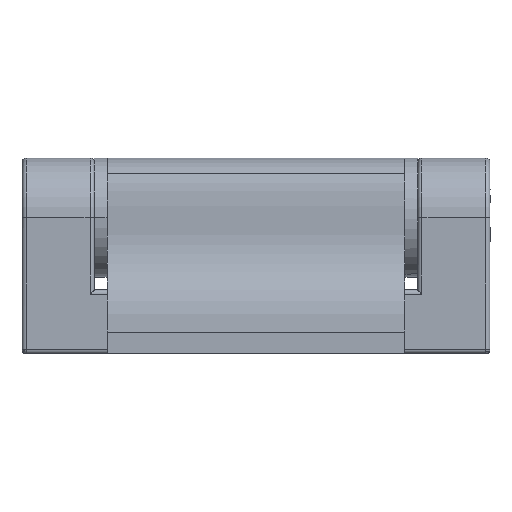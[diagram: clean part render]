
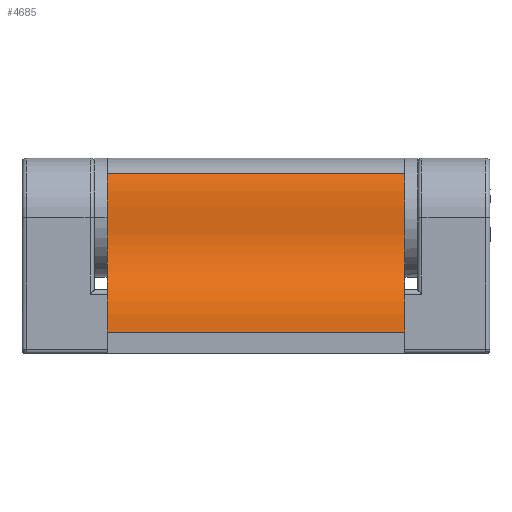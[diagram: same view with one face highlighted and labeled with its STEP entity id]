
A CAD part, top view. The second image highlights one B-rep face of the part: STEP entity #4685.
In plain terms, the highlighted free-form (B-spline) face has degree [3, 1] with [8, 2] control points.
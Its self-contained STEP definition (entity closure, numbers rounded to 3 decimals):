
#296 = EDGE_LOOP ( 'NONE', ( #4817, #5463, #8330, #1339 ) ) ;
#428 = CARTESIAN_POINT ( 'NONE',  ( 19., 2.5, 17.5 ) ) ;
#843 = CARTESIAN_POINT ( 'NONE',  ( 19., 2.5, -17.5 ) ) ;
#1034 = CARTESIAN_POINT ( 'NONE',  ( 3.984, 15.553, -17.5 ) ) ;
#1287 = VERTEX_POINT ( 'NONE', #843 ) ;
#1339 = ORIENTED_EDGE ( 'NONE', *, *, #2321, .T. ) ;
#1355 = CARTESIAN_POINT ( 'NONE',  ( -6.788, 19.833, 17.5 ) ) ;
#1645 = CARTESIAN_POINT ( 'NONE',  ( 11.254, 13.595, -17.5 ) ) ;
#1777 = EDGE_CURVE ( 'NONE', #1287, #8735, #7926, .T. ) ;
#2170 = FACE_OUTER_BOUND ( 'NONE', #296, .T. ) ;
#2321 = EDGE_CURVE ( 'NONE', #2681, #1287, #7442, .T. ) ;
#2355 = CARTESIAN_POINT ( 'NONE',  ( 19., 2.5, 17.5 ) ) ;
#2681 = VERTEX_POINT ( 'NONE', #428 ) ;
#2694 = CARTESIAN_POINT ( 'NONE',  ( 11.254, 13.595, 17.5 ) ) ;
#2808 = B_SPLINE_CURVE_WITH_KNOTS ( 'NONE', 3,
 ( #7454, #5362, #8087, #2694, #4055, #4015, #1355, #4809 ),
 .UNSPECIFIED., .F., .F.,
 ( 4, 1, 1, 1, 1, 4 ),
 ( 0., 0.189, 0.378, 0.621, 0.843, 1. ),
 .UNSPECIFIED. ) ;
#3053 = EDGE_CURVE ( 'NONE', #6456, #8735, #4742, .T. ) ;
#3087 = CARTESIAN_POINT ( 'NONE',  ( -8.33, 21.215, 17.5 ) ) ;
#3351 = DIRECTION ( 'NONE',  ( 0., 0., -1. ) ) ;
#3725 = CARTESIAN_POINT ( 'NONE',  ( -8.33, 21.215, 17.5 ) ) ;
#4015 = CARTESIAN_POINT ( 'NONE',  ( -3.051, 18.023, 17.5 ) ) ;
#4055 = CARTESIAN_POINT ( 'NONE',  ( 3.984, 15.553, 17.5 ) ) ;
#4290 = CARTESIAN_POINT ( 'NONE',  ( -6.788, 19.833, 17.5 ) ) ;
#4385 = CARTESIAN_POINT ( 'NONE',  ( 19., 5.334, -17.5 ) ) ;
#4390 = CARTESIAN_POINT ( 'NONE',  ( -3.051, 18.023, 17.5 ) ) ;
#4431 = CARTESIAN_POINT ( 'NONE',  ( -8.33, 21.215, -17.5 ) ) ;
#4685 = ADVANCED_FACE ( 'NONE', ( #2170 ), #4803, .F. ) ;
#4742 = LINE ( 'NONE', #8185, #8355 ) ;
#4803 = B_SPLINE_SURFACE_WITH_KNOTS ( 'NONE', 3, 1, ( 
 ( #2355, #5648 ),
 ( #7833, #8452 ),
 ( #7168, #5058 ),
 ( #8408, #1645 ),
 ( #5108, #1034 ),
 ( #4390, #7126 ),
 ( #4290, #6482 ),
 ( #3087, #8311 ) ),
 .UNSPECIFIED., .F., .F., .F.,
 ( 4, 1, 1, 1, 1, 4 ),
 ( 2, 2 ),
 ( 0., 0.189, 0.378, 0.621, 0.843, 1. ),
 ( 0., 1. ),
 .UNSPECIFIED. ) ;
#4809 = CARTESIAN_POINT ( 'NONE',  ( -8.33, 21.215, 17.5 ) ) ;
#4817 = ORIENTED_EDGE ( 'NONE', *, *, #1777, .T. ) ;
#5058 = CARTESIAN_POINT ( 'NONE',  ( 17.632, 9.062, -17.5 ) ) ;
#5108 = CARTESIAN_POINT ( 'NONE',  ( 3.984, 15.553, 17.5 ) ) ;
#5146 = CARTESIAN_POINT ( 'NONE',  ( 19., 2.5, -17.5 ) ) ;
#5183 = CARTESIAN_POINT ( 'NONE',  ( 11.254, 13.595, -17.5 ) ) ;
#5362 = CARTESIAN_POINT ( 'NONE',  ( 19., 5.334, 17.5 ) ) ;
#5463 = ORIENTED_EDGE ( 'NONE', *, *, #3053, .F. ) ;
#5537 = VECTOR ( 'NONE', #5988, 1000. ) ;
#5648 = CARTESIAN_POINT ( 'NONE',  ( 19., 2.5, -17.5 ) ) ;
#5955 = CARTESIAN_POINT ( 'NONE',  ( -6.788, 19.833, -17.5 ) ) ;
#5988 = DIRECTION ( 'NONE',  ( 0., 0., -1. ) ) ;
#6254 = CARTESIAN_POINT ( 'NONE',  ( -8.33, 21.215, -17.5 ) ) ;
#6456 = VERTEX_POINT ( 'NONE', #3725 ) ;
#6482 = CARTESIAN_POINT ( 'NONE',  ( -6.788, 19.833, -17.5 ) ) ;
#6564 = CARTESIAN_POINT ( 'NONE',  ( -3.051, 18.023, -17.5 ) ) ;
#6596 = CARTESIAN_POINT ( 'NONE',  ( 19., 2.5, 17.5 ) ) ;
#7126 = CARTESIAN_POINT ( 'NONE',  ( -3.051, 18.023, -17.5 ) ) ;
#7162 = CARTESIAN_POINT ( 'NONE',  ( 17.632, 9.062, -17.5 ) ) ;
#7168 = CARTESIAN_POINT ( 'NONE',  ( 17.632, 9.062, 17.5 ) ) ;
#7442 = LINE ( 'NONE', #6596, #5537 ) ;
#7454 = CARTESIAN_POINT ( 'NONE',  ( 19., 2.5, 17.5 ) ) ;
#7609 = EDGE_CURVE ( 'NONE', #2681, #6456, #2808, .T. ) ;
#7833 = CARTESIAN_POINT ( 'NONE',  ( 19., 5.334, 17.5 ) ) ;
#7926 = B_SPLINE_CURVE_WITH_KNOTS ( 'NONE', 3,
 ( #5146, #4385, #7162, #5183, #8619, #6564, #5955, #4431 ),
 .UNSPECIFIED., .F., .F.,
 ( 4, 1, 1, 1, 1, 4 ),
 ( 0., 0.189, 0.378, 0.621, 0.843, 1. ),
 .UNSPECIFIED. ) ;
#8087 = CARTESIAN_POINT ( 'NONE',  ( 17.632, 9.062, 17.5 ) ) ;
#8185 = CARTESIAN_POINT ( 'NONE',  ( -8.33, 21.215, 17.5 ) ) ;
#8311 = CARTESIAN_POINT ( 'NONE',  ( -8.33, 21.215, -17.5 ) ) ;
#8330 = ORIENTED_EDGE ( 'NONE', *, *, #7609, .F. ) ;
#8355 = VECTOR ( 'NONE', #3351, 1000. ) ;
#8408 = CARTESIAN_POINT ( 'NONE',  ( 11.254, 13.595, 17.5 ) ) ;
#8452 = CARTESIAN_POINT ( 'NONE',  ( 19., 5.334, -17.5 ) ) ;
#8619 = CARTESIAN_POINT ( 'NONE',  ( 3.984, 15.553, -17.5 ) ) ;
#8735 = VERTEX_POINT ( 'NONE', #6254 ) ;
